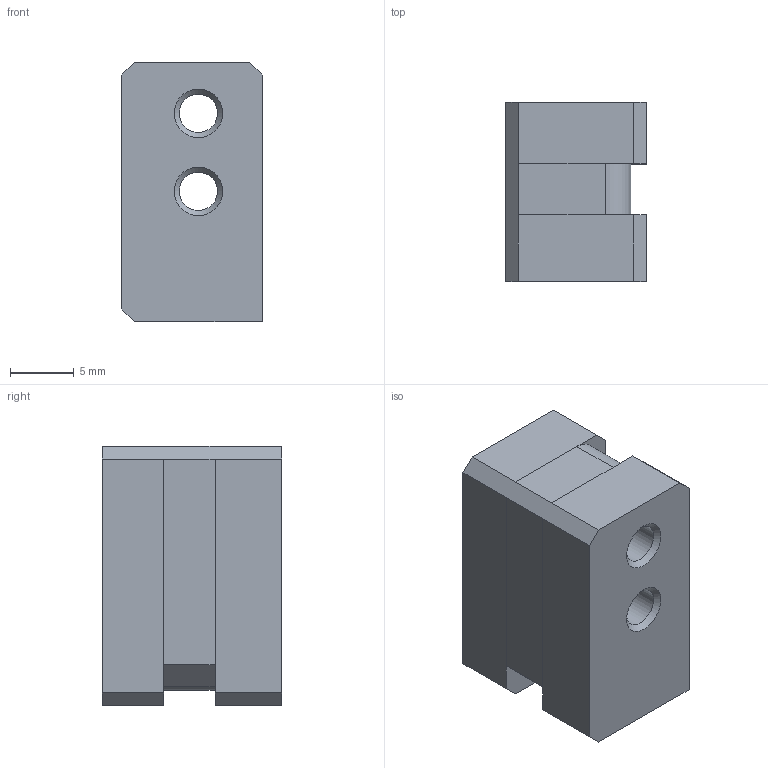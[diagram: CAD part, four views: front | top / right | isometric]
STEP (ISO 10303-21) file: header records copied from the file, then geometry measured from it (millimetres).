
FILE_DESCRIPTION(/* description */ (''),/* implementation_level */ '2;1');
FILE_NAME(/* name */ 'C:/Users/Martin/Documents/icarus-2.1/icarus-2-current-step-files/1-belt-pegs/icarus-belt-tensioner-closed-belts-2.0.1.step',/* time_stamp */ '2022-08-22T19:38:09+02:00',/* author */ (''),/* organization */ (''),/* preprocessor_version */ 'ST-DEVELOPER v19',/* originating_system */ 'Autodesk Translation Framework v11.7.0.108',/* authorisation */ '');
FILE_SCHEMA (('AUTOMOTIVE_DESIGN { 1 0 10303 214 3 1 1 }'));
Length unit declared in the file: millimetre
Products named in the file (1): icarus
Bounding box: 11 x 14 x 20.3 mm (x, y, z)
Volume: 2588.3 mm3; surface area: 1815.8 mm2
Topology: 1 solids, 1 shells, 71 faces, 193 edges, 124 vertices
Faces by surface type: plane 60, cone 6, cylinder 5
Full cylindrical faces by diameter (mm): 3 x2
Entity records: 2533 total; most frequent: CARTESIAN_POINT 389, ORIENTED_EDGE 386, DIRECTION 357, EDGE_CURVE 193, LINE 173, VECTOR 173, VERTEX_POINT 124, AXIS2_PLACEMENT_3D 92
